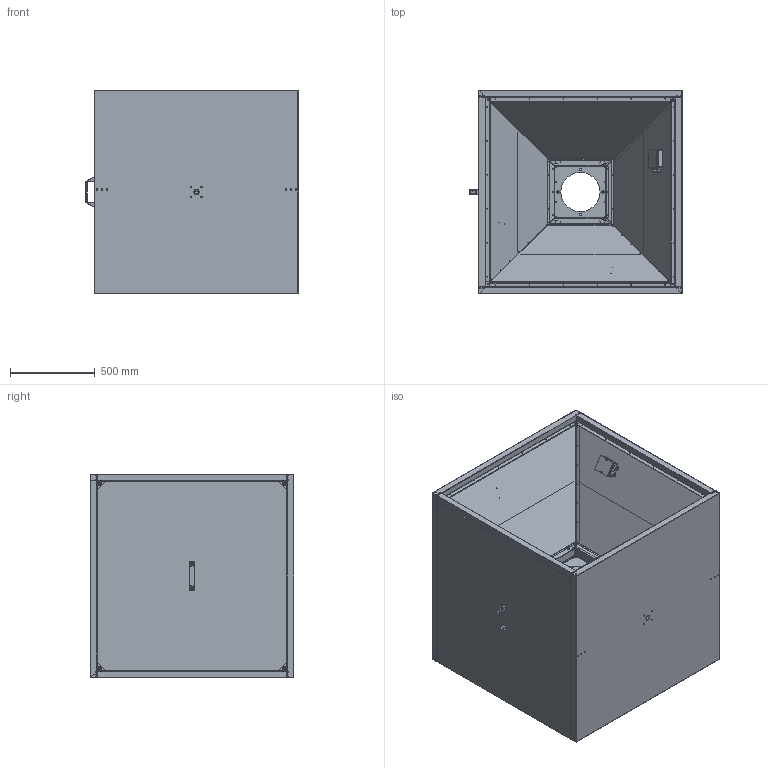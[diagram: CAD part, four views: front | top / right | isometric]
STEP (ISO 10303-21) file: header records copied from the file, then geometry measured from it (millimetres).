
FILE_DESCRIPTION (( 'STEP AP203' ), '1' );
FILE_NAME ('150945-02_MPC710D6T30_step.step', '2019-09-16T08:01:02', ( '' ), ( '' ), 'SwSTEP 2.0', 'SolidWorks 2017', '' );
FILE_SCHEMA (( 'CONFIG_CONTROL_DESIGN' ));
Length unit declared in the file: millimetre
Products named in the file (1): 150945-02_MPC710D6T30_step
Bounding box: 1252 x 1200.1 x 1200 mm (x, y, z)
Surface area: 18695845.2 mm2 (no closed solid volume)
Topology: 0 solids, 195 shells, 774 faces, 4632 edges, 4008 vertices
Faces by surface type: cylinder 371, plane 335, cone 27, torus 26, bspline 15
Entity records: 49554 total; most frequent: CARTESIAN_POINT 12289, DIRECTION 8270, ORIENTED_EDGE 5505, EDGE_CURVE 4632, VERTEX_POINT 4008, AXIS2_PLACEMENT_3D 3093, CIRCLE 2333, VECTOR 2084
